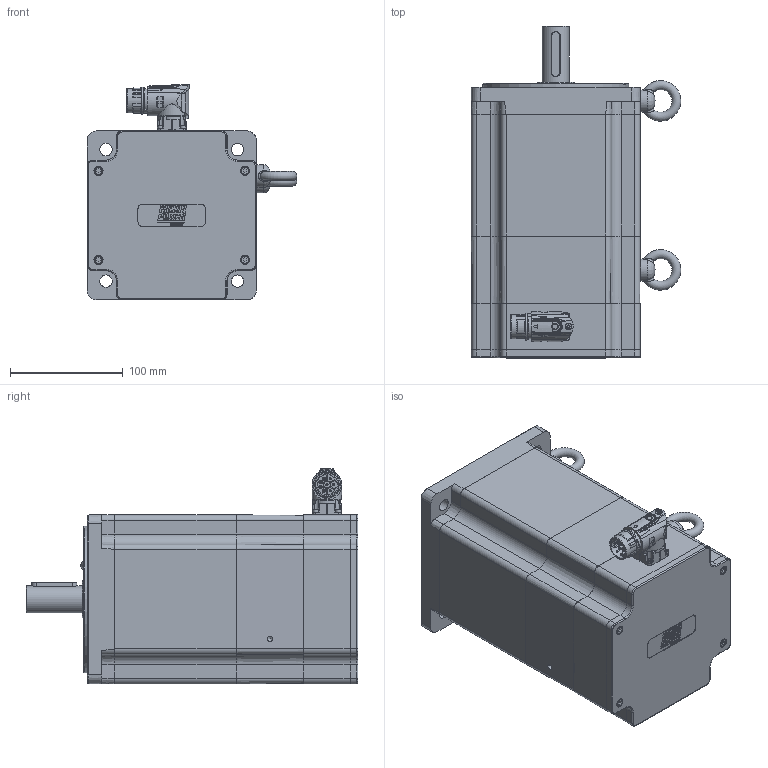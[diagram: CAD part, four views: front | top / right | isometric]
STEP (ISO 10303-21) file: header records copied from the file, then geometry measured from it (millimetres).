
FILE_DESCRIPTION(/* description */ ('Unknown'),/* implementation_level */ '2;1');
FILE_NAME(/* name */ 'TC4-150.6A.XX.X. 3.M1.1.X .C21 Q0C701',/* time_stamp */ '2026-03-06T16:37:41+01:00',/* author */ ('Unknown'),/* organization */ ('Unknown'),/* preprocessor_version */ 'ST-DEVELOPER v19.4',/* originating_system */ 'Solid Edge',/* authorisation */ 'Unknown');
FILE_SCHEMA (('AUTOMOTIVE_DESIGN {1 0 10303 214 3 1 1}'));
Products named in the file (15): Q0C701 6A FRENO M1 VUOTO; Distanziale calotta-tappo TC4-150; 005113000600; 003003200393; 005321000040; 005911000252; 003103040225; 007117000456; Coperchio campana TC4-150; 005911000223; 005119002043; 005911000185; 005308000030; Dispersore TC4 150 6A single cable; 003251040619
Assembly tree (24 placements, depth 2):
  Q0C701 6A FRENO M1 VUOTO
    Distanziale calotta-tappo TC4-150
    005113000600
    003003200393
    005321000040  x2
    005911000252  x4
    003103040225
    007117000456
    Coperchio campana TC4-150
    005911000223  x4
    005119002043
    005911000185  x4
    005308000030
    Dispersore TC4 150 6A single cable
    003251040619
Bounding box: 185.98 x 294.5 x 191.51 mm (x, y, z)
Volume: 2049647.3 mm3; surface area: 500818 mm2
Topology: 25 solids, 25 shells, 1963 faces, 4878 edges, 3079 vertices
Faces by surface type: plane 848, cylinder 399, bspline 369, cone 186, torus 134, sphere 27
Full cylindrical faces by diameter (mm): 1 x4, 1.4 x4, 2 x4, 2.013 x4, 2.459 x2, 2.5 x4, 2.8 x4, 3 x8, 3.2 x1, 3.242 x12, 4 x4, 4.134 x12, 4.5 x9, 4.7 x4, 4.917 x12, 5 x7, 5.5 x9, 5.8 x1, 5.9 x1, 6 x3, 6.647 x2, 6.8 x1, 7 x4, 8 x4, 8.4 x1, 8.5 x4, 9 x4, 10 x5, 11 x4, 17.4 x1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
Entity records: 72946 total; most frequent: CARTESIAN_POINT 21475, ORIENTED_EDGE 8238, DIRECTION 7246, EDGE_CURVE 4119, VERTEX_POINT 2794, AXIS2_PLACEMENT_3D 2734, FACE_BOUND 2355, EDGE_LOOP 2329
